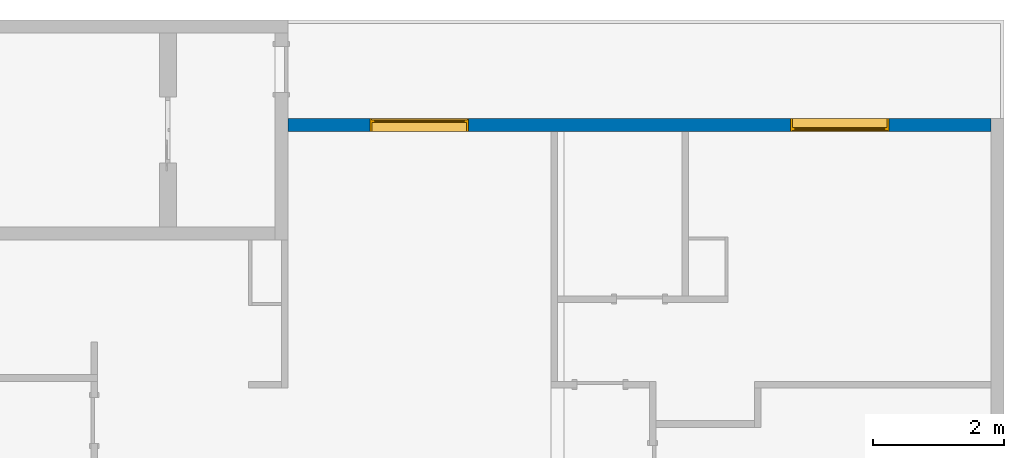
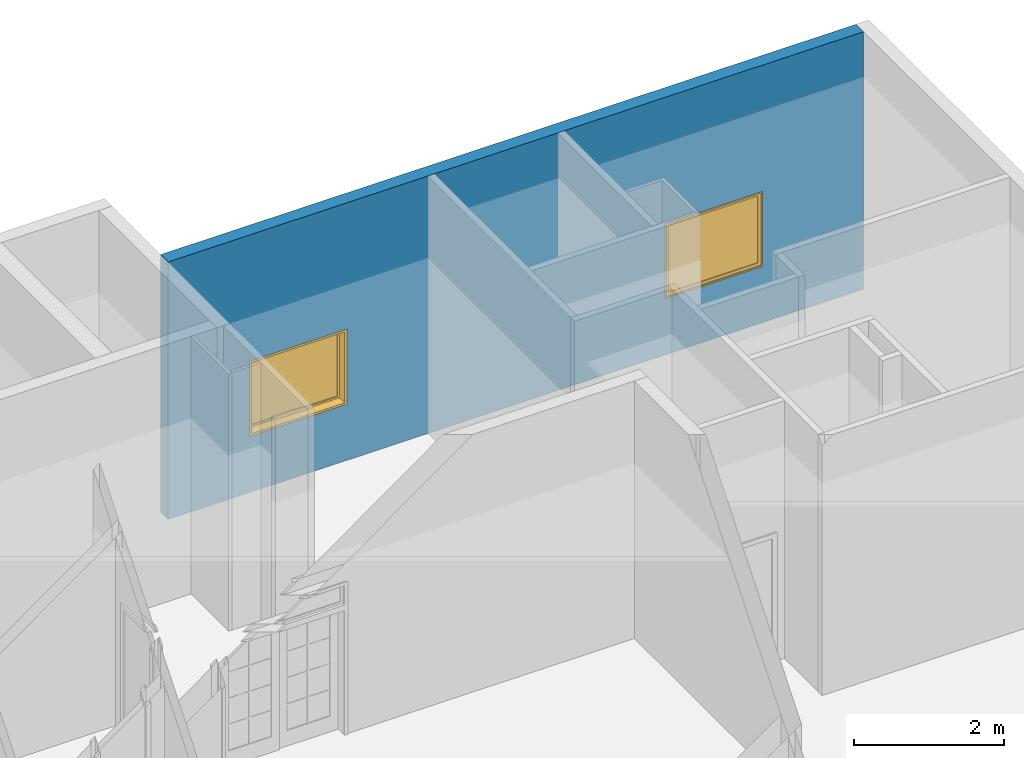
# One storey, part 5 of 7: 2 windows, 1 wall, 2 openings.
"""IFC2X3 building model written with IfcOpenShell, lengths in metres."""

from ifc_helpers import new_model, entity, si_unit, converted_unit, derived_unit, direction, frame, frame_2d, origin, place, context, subcontext, project, spatial, polyline, rectangle, outline, extrude, source, transform, mapped, material, material_list, layer, layer_set, layer_usage, type_object, type_shapes, element, fill, save


model = new_model("IFC2X3")

# Units and contexts
model_context = context("Model", 3, precision=1e-05, world=origin(), true_north=direction((6.123031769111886e-17, 1.0)))
body_context = subcontext(model_context, "Body", "Model", "MODEL_VIEW")
ifc_project = project(units=[si_unit("LENGTHUNIT", "METRE"), si_unit("AREAUNIT", "SQUARE_METRE"), si_unit("VOLUMEUNIT", "CUBIC_METRE"), converted_unit("PLANEANGLEUNIT", "DEGREE", entity("IfcRatioMeasure", 0.017453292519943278), si_unit("PLANEANGLEUNIT", "RADIAN"), dimensions=[0, 0, 0, 0, 0, 0, 0]), si_unit("MASSUNIT", "GRAM", prefix="KILO"), derived_unit("MASSDENSITYUNIT", [(si_unit("MASSUNIT", "GRAM", prefix="KILO"), 1), (si_unit("LENGTHUNIT", "METRE"), -3)]), derived_unit("MOMENTOFINERTIAUNIT", [(si_unit("LENGTHUNIT", "METRE"), 4)]), si_unit("TIMEUNIT", "SECOND"), si_unit("FREQUENCYUNIT", "HERTZ"), si_unit("THERMODYNAMICTEMPERATUREUNIT", "DEGREE_CELSIUS"), derived_unit("THERMALTRANSMITTANCEUNIT", [(si_unit("MASSUNIT", "GRAM", prefix="KILO"), 1), (si_unit("THERMODYNAMICTEMPERATUREUNIT", "KELVIN"), -1), (si_unit("TIMEUNIT", "SECOND"), -3)]), derived_unit("VOLUMETRICFLOWRATEUNIT", [(si_unit("LENGTHUNIT", "METRE"), 3), (si_unit("TIMEUNIT", "SECOND"), -1)]), derived_unit("MASSFLOWRATEUNIT", [(si_unit("MASSUNIT", "GRAM", prefix="KILO"), 1), (si_unit("TIMEUNIT", "SECOND"), -1)]), derived_unit("ROTATIONALFREQUENCYUNIT", [(si_unit("TIMEUNIT", "SECOND"), -1)]), si_unit("ELECTRICCURRENTUNIT", "AMPERE"), si_unit("ELECTRICVOLTAGEUNIT", "VOLT"), si_unit("POWERUNIT", "WATT"), si_unit("FORCEUNIT", "NEWTON", prefix="KILO"), si_unit("ILLUMINANCEUNIT", "LUX"), si_unit("LUMINOUSFLUXUNIT", "LUMEN"), si_unit("LUMINOUSINTENSITYUNIT", "CANDELA"), derived_unit("USERDEFINED", [(si_unit("MASSUNIT", "GRAM", prefix="KILO"), -1), (si_unit("LENGTHUNIT", "METRE"), -2), (si_unit("TIMEUNIT", "SECOND"), 3), (si_unit("LUMINOUSFLUXUNIT", "LUMEN"), 1)]), derived_unit("SOUNDPOWERUNIT", [(si_unit("MASSUNIT", "GRAM", prefix="KILO"), 1), (si_unit("LENGTHUNIT", "METRE"), 2), (si_unit("TIMEUNIT", "SECOND"), -3)]), derived_unit("SOUNDPRESSUREUNIT", [(si_unit("MASSUNIT", "GRAM", prefix="KILO"), 1), (si_unit("LENGTHUNIT", "METRE"), -1), (si_unit("TIMEUNIT", "SECOND"), -2)]), derived_unit("LINEARVELOCITYUNIT", [(si_unit("LENGTHUNIT", "METRE"), 1), (si_unit("TIMEUNIT", "SECOND"), -1)]), si_unit("PRESSUREUNIT", "PASCAL"), derived_unit("USERDEFINED", [(si_unit("LENGTHUNIT", "METRE"), -2), (si_unit("MASSUNIT", "GRAM", prefix="KILO"), 1), (si_unit("TIMEUNIT", "SECOND"), -2)]), derived_unit("LINEARFORCEUNIT", [(si_unit("MASSUNIT", "GRAM", prefix="KILO"), 1), (si_unit("LENGTHUNIT", "METRE"), 1), (si_unit("TIMEUNIT", "SECOND"), -2), (si_unit("LENGTHUNIT", "METRE"), -1)]), derived_unit("PLANARFORCEUNIT", [(si_unit("MASSUNIT", "GRAM", prefix="KILO"), 1), (si_unit("LENGTHUNIT", "METRE"), 1), (si_unit("TIMEUNIT", "SECOND"), -2), (si_unit("LENGTHUNIT", "METRE"), -2)])], contexts=[model_context])

# Site, building, storey
site_placement = place(None, origin())
site = spatial("IfcSite", under=ifc_project, at=site_placement, Name="Default", CompositionType="ELEMENT")
building_placement = place(site_placement, origin())
building = spatial("IfcBuilding", under=site, at=building_placement, CompositionType="ELEMENT")
storey_placement = place(building_placement, frame((0.0, 0.0, 5.639999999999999)))
storey = spatial("IfcBuildingStorey", under=building, at=storey_placement, Name="F1", CompositionType="ELEMENT", Elevation=5.639999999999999)

# Wall, openings, windows
ifc_material_1 = material(Name="Masonry - Concrete Block")
ifc_layer = layer(ifc_material_1, 0.2)
ifc_layer_set = layer_set([ifc_layer], Name="Basic Wall:CW 200")
ifc_layer_usage = layer_usage(ifc_layer_set, "AXIS2", "NEGATIVE", 0.1)
wall_type = type_object("IfcWallType", Name="Basic Wall:CW 200", PredefinedType="STANDARD", material=ifc_layer_set)
wall_placement = place(storey_placement, frame((28.70768321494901, 4.402607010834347, 0.0), z_axis=(0.0, 0.0, 1.0), x_axis=(-1.0, 0.0, 0.0)))
wall = element("IfcWallStandardCase", 1, at=wall_placement, inside=storey, type_object=wall_type, material=ifc_layer_usage, Name="Basic Wall:CW 200", ObjectType="Basic Wall:CW 200", context=body_context, shape_type="SweptSolid", body=[
    extrude(rectangle(XDim=10.699999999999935, YDim=0.2, at=frame_2d((5.349999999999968, -2.220446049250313e-16), x_axis=(-1.0, 0.0))), origin(), (0.0, 0.0, 1.0), 4.19),
])
opening_1_placement = place(wall_placement, frame((1.5499999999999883, -0.10000000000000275, 0.9150000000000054)))
opening_1 = element("IfcOpeningElement", 2, at=opening_1_placement, cuts=wall, Name="M_Fixed:0915 x 1220mm:1", ObjectType="Opening", context=body_context, shape_type="SweptSolid", body=[
    extrude(rectangle(XDim=1.2199999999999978, YDim=1.4999999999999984, at=frame_2d((0.6099999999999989, 0.7499999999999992), x_axis=(1.0, 0.0))), frame((0.0, 0.0, 0.0), z_axis=(0.0, 1.0, 0.0), x_axis=(0.0, 0.0, 1.0)), (0.0, 0.0, 1.0), 0.2),
])
opening_2_placement = place(wall_placement, frame((9.449999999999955, 0.09999999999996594, 0.9150000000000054)))
opening_2 = element("IfcOpeningElement", 3, at=opening_2_placement, cuts=wall, Name="M_Fixed:0915 x 1220mm:1", ObjectType="Opening", context=body_context, shape_type="SweptSolid", body=[
    extrude(rectangle(XDim=1.2199999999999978, YDim=1.4999999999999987, at=frame_2d((0.6099999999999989, 0.7499999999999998), x_axis=(1.0, 0.0))), frame((0.0, 0.0, 0.0), z_axis=(0.0, -1.0, 0.0), x_axis=(0.0, 0.0, 1.0)), (0.0, 0.0, 1.0), 0.2),
])
ifc_material_2 = material(Name="Glass")
ifc_material_3 = material(Name="Sash")
ifc_material_list_1 = material_list([ifc_material_2, ifc_material_3])
ifc_material_list_2 = material_list([ifc_material_2, ifc_material_3, ifc_material_3, ifc_material_3])
window_style = type_object("IfcWindowStyle", Name="M_Fixed:0915 x 1220mm", ConstructionType="NOTDEFINED", OperationType="NOTDEFINED", ParameterTakesPrecedence=False, Sizeable=False, material=ifc_material_list_2)
shared_shape = source(origin(), body_context, "Body", "SweptSolid", [
    extrude(rectangle(XDim=0.011999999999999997, YDim=1.3739999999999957, at=frame_2d((8.239936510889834e-18, 0.0), x_axis=(1.0, 0.0))), frame((0.7500000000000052, 0.15899999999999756, 0.06299999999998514), z_axis=(0.0, 0.0, 1.0), x_axis=(0.0, -1.0, 0.0)), (0.0, 0.0, 1.0), 1.0940000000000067),
    extrude(outline(polyline([(-0.7309999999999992, -0.5910000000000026), (0.7309999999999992, -0.5910000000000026), (0.7309999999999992, 0.5910000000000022), (-0.7309999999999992, 0.5910000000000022), (-0.7309999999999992, -0.5910000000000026)]), holes=[polyline([(-0.686999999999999, -0.5470000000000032), (-0.686999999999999, 0.5470000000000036), (0.6869999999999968, 0.5470000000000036), (0.6869999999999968, -0.5470000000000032), (-0.686999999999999, -0.5470000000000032)])]), frame((0.7500000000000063, 0.13699999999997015, 0.6099999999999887), z_axis=(0.0, 1.0, 0.0), x_axis=(1.0, 0.0, 0.0)), (0.0, 0.0, 1.0), 0.04400000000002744),
    extrude(outline(polyline([(-0.749999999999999, -0.609999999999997), (0.749999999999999, -0.609999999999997), (0.749999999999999, 0.609999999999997), (-0.749999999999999, 0.609999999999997), (-0.749999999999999, -0.609999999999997)]), holes=[polyline([(-0.7310000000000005, -0.5909999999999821), (-0.7310000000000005, 0.5910000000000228), (0.7309999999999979, 0.5910000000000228), (0.7309999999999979, -0.5909999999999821), (-0.7310000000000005, -0.5909999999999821)])]), frame((0.7500000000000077, 0.13699999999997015, 0.6100000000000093), z_axis=(0.0, 1.0, 0.0), x_axis=(1.0, 0.0, 0.0)), (0.0, 0.0, 1.0), 0.06300000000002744),
    extrude(outline(polyline([(-0.7499999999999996, -0.6099999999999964), (0.7499999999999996, -0.6099999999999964), (0.7499999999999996, 0.6099999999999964), (-0.7499999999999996, 0.6099999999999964), (-0.7499999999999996, -0.6099999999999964)]), holes=[polyline([(-0.7179999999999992, -0.5779999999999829), (-0.7179999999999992, 0.5780000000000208), (0.7179999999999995, 0.5780000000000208), (0.7179999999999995, -0.5779999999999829), (-0.7179999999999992, -0.5779999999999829)])]), frame((0.750000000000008, 0.0, 0.6100000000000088), z_axis=(0.0, 1.0, 0.0), x_axis=(1.0, 0.0, 0.0)), (0.0, 0.0, 1.0), 0.1369999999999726),
])
type_shapes(window_style, [shared_shape])
window_1_placement = place(opening_1_placement, origin())
window_1 = element("IfcWindow", 4, at=window_1_placement, inside=storey, type_object=window_style, material=ifc_material_list_1, Name="M_Fixed:0915 x 1220mm", ObjectType="M_Fixed:0915 x 1220mm", OverallHeight=1.2199999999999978, OverallWidth=1.499999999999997, context=body_context, shape_type="MappedRepresentation", body=[
    mapped(shared_shape, transform((0.0, 0.0, 0.0), scale=1.0)),
])
fill(opening_1, window_1)
ifc_material_list_3 = material_list([ifc_material_2, ifc_material_3])
window_2_placement = place(opening_2_placement, frame((0.0, 0.0, 0.0), z_axis=(0.0, 0.0, 1.0), x_axis=(-1.0, 0.0, 0.0)))
window_2 = element("IfcWindow", 5, at=window_2_placement, inside=storey, type_object=window_style, material=ifc_material_list_3, Name="M_Fixed:0915 x 1220mm", ObjectType="M_Fixed:0915 x 1220mm", OverallHeight=1.2199999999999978, OverallWidth=1.500000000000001, context=body_context, shape_type="MappedRepresentation", body=[
    mapped(shared_shape, transform((0.0, 0.0, 0.0), scale=1.0)),
])
fill(opening_2, window_2)

save(model, "model.ifc")
